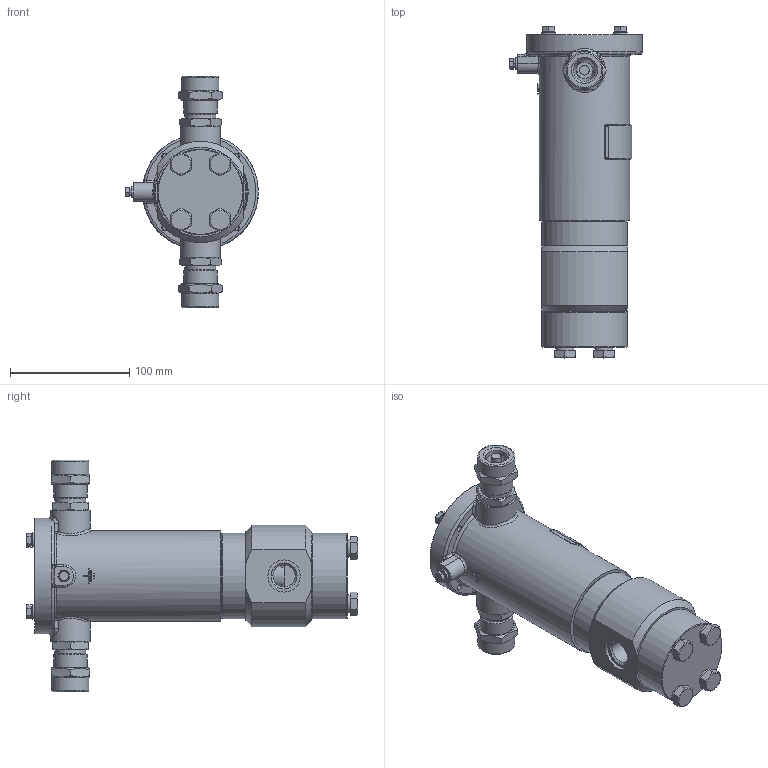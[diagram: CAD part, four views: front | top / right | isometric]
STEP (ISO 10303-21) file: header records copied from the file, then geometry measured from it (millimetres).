
FILE_DESCRIPTION(('STEP AP203'), '1');
FILE_NAME('ÑÅÍÑ-ÏÐ DN10PN250-ÍÎ-G1_2-0.stp', '2018-10-01T10:06:05', ('Îðëîâ Å.Â.'), ('ÎÎÎ ÍÏÏ Ñåíñîð'), 'ASCON STEP Converter 1.3', 'Kompas 3D', '');
FILE_SCHEMA(('CONFIG_CONTROL_DESIGN','SUPPORT_RESOURCE_SCHEMA'));
Length unit declared in the file: millimetre
Products named in the file (1): 12
Bounding box: 111.2 x 278.1 x 194 mm (x, y, z)
Volume: 802982.8 mm3; surface area: 218003.2 mm2
Topology: 3 solids, 21 shells, 1766 faces, 4720 edges, 3084 vertices
Faces by surface type: cylinder 924, plane 659, cone 118, bspline 27, torus 22, extrusion 16
Full cylindrical faces by diameter (mm): 3.3 x2, 3.5 x2, 4.134 x1, 4.917 x4, 5 x1, 6 x7, 6.1 x1, 6.5 x4, 8 x4, 8.376 x4, 9 x1, 10 x5, 11 x4, 12 x4, 13 x2, 15 x1, 18.631 x2, 18.632 x2, 20 x3, 21.5 x1, 22 x2, 22.376 x2, 23.5 x2, 24 x2, 24.5 x2, 26 x4, 26.376 x2, 27 x2, 28 x2, 30 x1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
Entity records: 66049 total; most frequent: CARTESIAN_POINT 20731, DIRECTION 9870, ORIENTED_EDGE 9412, EDGE_CURVE 4706, AXIS2_PLACEMENT_3D 3776, VERTEX_POINT 3084, VECTOR 2318, LINE 2302
